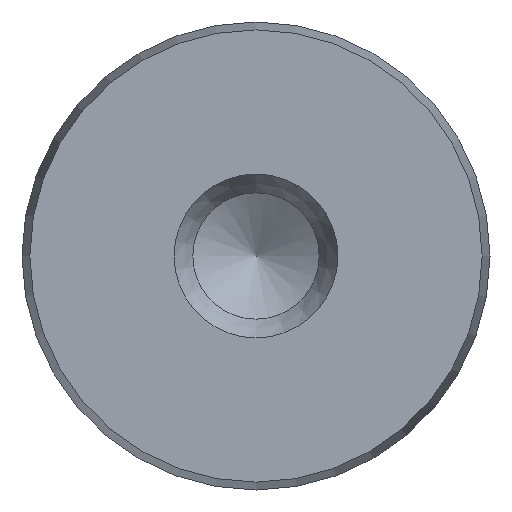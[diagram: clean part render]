
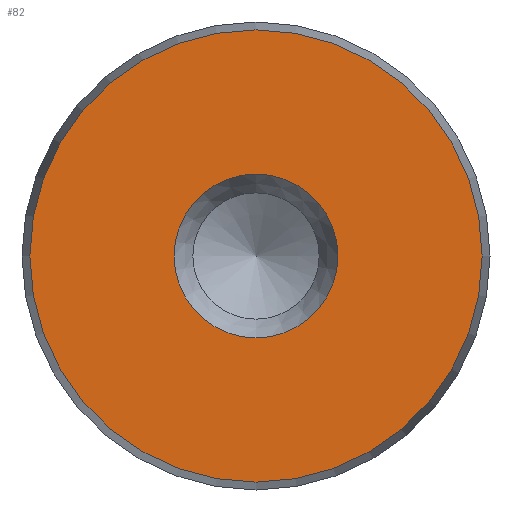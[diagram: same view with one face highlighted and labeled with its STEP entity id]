
A CAD part, front view. The second image highlights one B-rep face of the part: STEP entity #82.
In plain terms, the highlighted planar face has unit normal (0, -1, 0).
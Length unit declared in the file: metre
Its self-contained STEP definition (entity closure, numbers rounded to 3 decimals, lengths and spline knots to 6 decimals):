
#82 = ADVANCED_FACE( '', ( #108, #109 ), #110, .T. );
#108 = FACE_BOUND( '', #150, .T. );
#109 = FACE_OUTER_BOUND( '', #151, .T. );
#110 = PLANE( '', #152 );
#150 = EDGE_LOOP( '', ( #202 ) );
#151 = EDGE_LOOP( '', ( #203 ) );
#152 = AXIS2_PLACEMENT_3D( '', #204, #205, #206 );
#202 = ORIENTED_EDGE( '', *, *, #252, .T. );
#203 = ORIENTED_EDGE( '', *, *, #254, .T. );
#204 = CARTESIAN_POINT( '', ( 0., -0.0625, 0. ) );
#205 = DIRECTION( '', ( 0., -1., 0. ) );
#206 = DIRECTION( '', ( 0., 0., -1. ) );
#252 = EDGE_CURVE( '', #270, #270, #271, .F. );
#254 = EDGE_CURVE( '', #274, #274, #275, .T. );
#270 = VERTEX_POINT( '', #296 );
#271 = CIRCLE( '', #297, 0.004375 );
#274 = VERTEX_POINT( '', #300 );
#275 = CIRCLE( '', #301, 0.012078 );
#296 = CARTESIAN_POINT( '', ( 0., -0.0625, -0.004375 ) );
#297 = AXIS2_PLACEMENT_3D( '', #326, #327, #328 );
#300 = CARTESIAN_POINT( '', ( 0., -0.0625, -0.012078 ) );
#301 = AXIS2_PLACEMENT_3D( '', #332, #333, #334 );
#326 = CARTESIAN_POINT( '', ( 0., -0.0625, 0. ) );
#327 = DIRECTION( '', ( 0., -1., 0. ) );
#328 = DIRECTION( '', ( 0., 0., -1. ) );
#332 = CARTESIAN_POINT( '', ( 0., -0.0625, 0. ) );
#333 = DIRECTION( '', ( 0., -1., 0. ) );
#334 = DIRECTION( '', ( 0., 0., -1. ) );
